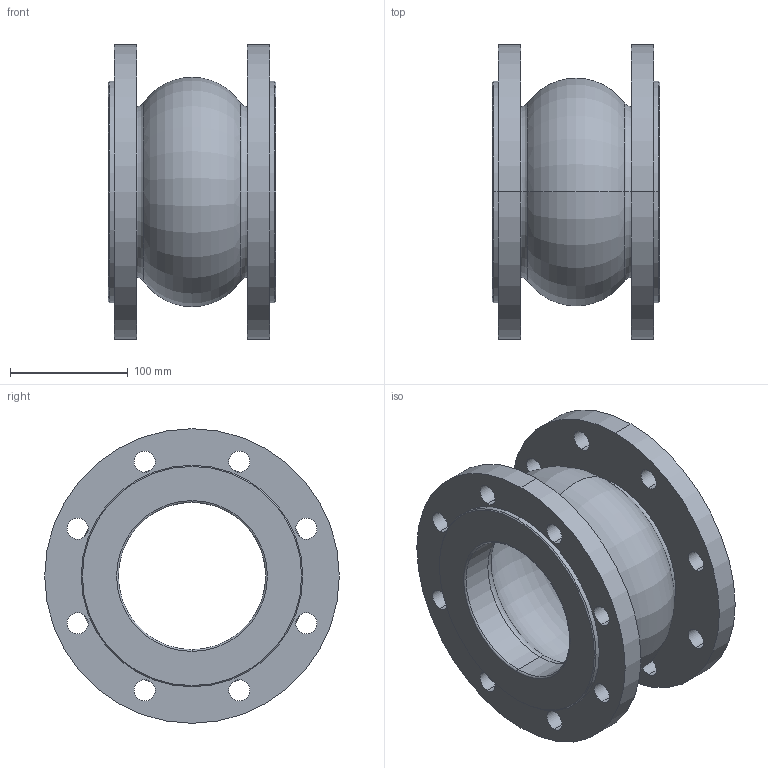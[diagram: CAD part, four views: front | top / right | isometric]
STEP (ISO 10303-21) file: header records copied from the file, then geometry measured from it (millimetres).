
FILE_DESCRIPTION (( 'STEP AP203' ), '1' );
FILE_NAME ('F8_PN16_DN125.STEP', '2012-10-31T08:44:50', ( 'luca.saino' ), ( 'Hewlett-Packard Company' ), 'SwSTEP 2.0', 'SolidWorks 2012', '' );
FILE_SCHEMA (( 'CONFIG_CONTROL_DESIGN' ));
Length unit declared in the file: millimetre
Products named in the file (1): F8_PN16_DN125
Bounding box: 142 x 250 x 250 mm (x, y, z)
Volume: 2030591.5 mm3; surface area: 316405.4 mm2
Topology: 1 solids, 1 shells, 74 faces, 180 edges, 112 vertices
Faces by surface type: cylinder 44, torus 16, cone 8, plane 6
Entity records: 2365 total; most frequent: DIRECTION 458, CARTESIAN_POINT 367, ORIENTED_EDGE 360, AXIS2_PLACEMENT_3D 203, EDGE_CURVE 180, CIRCLE 128, VERTEX_POINT 112, EDGE_LOOP 112
